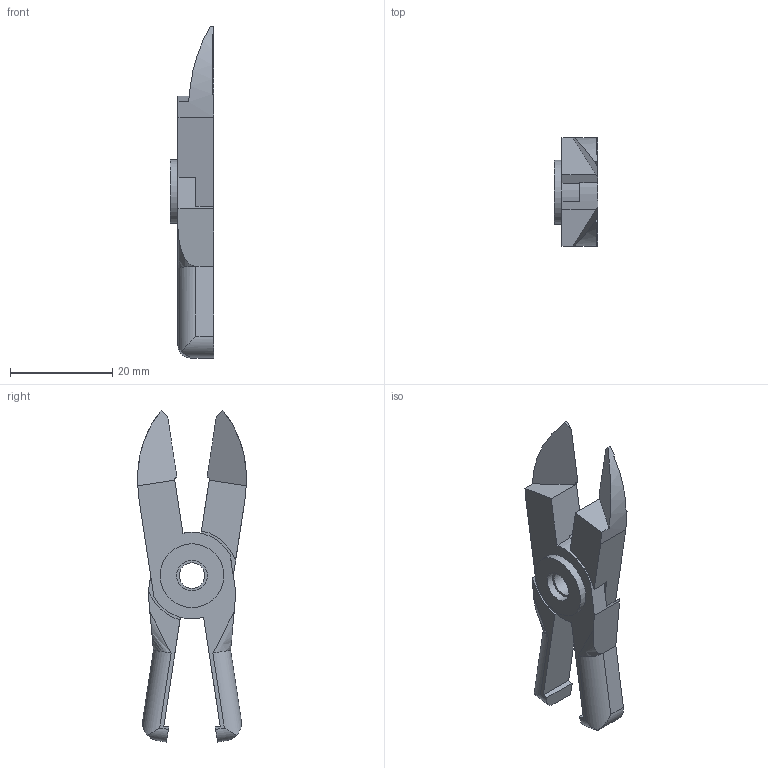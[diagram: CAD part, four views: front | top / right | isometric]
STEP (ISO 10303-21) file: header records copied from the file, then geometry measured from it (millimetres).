
FILE_DESCRIPTION (( 'STEP AP214' ), '1' );
FILE_NAME ('661.STEP', '2024-07-31T20:22:31', ( '' ), ( '' ), 'SwSTEP 2.0', 'SolidWorks 2022', '' );
FILE_SCHEMA (( 'AUTOMOTIVE_DESIGN' ));
Length unit declared in the file: millimetre
Products named in the file (1): 661
Bounding box: 8.5 x 21.33 x 65.09 mm (x, y, z)
Volume: 4652.1 mm3; surface area: 4283.7 mm2
Topology: 3 solids, 3 shells, 72 faces, 192 edges, 128 vertices
Faces by surface type: plane 44, cylinder 24, bspline 4
Full cylindrical faces by diameter (mm): 5 x1, 6 x1, 8 x3, 12.5 x1
Entity records: 2333 total; most frequent: CARTESIAN_POINT 522, ORIENTED_EDGE 368, DIRECTION 342, EDGE_CURVE 184, VERTEX_POINT 126, LINE 124, VECTOR 124, AXIS2_PLACEMENT_3D 109
